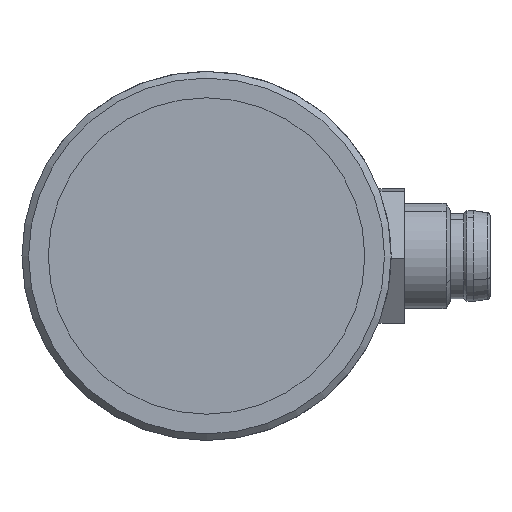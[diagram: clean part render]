
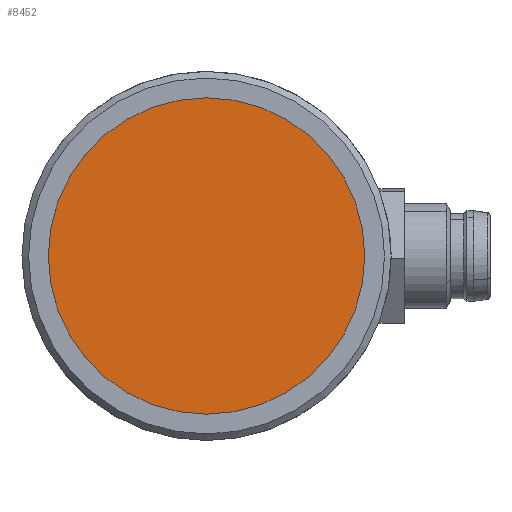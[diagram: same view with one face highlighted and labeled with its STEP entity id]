
A CAD part, left-side view. The second image highlights one B-rep face of the part: STEP entity #8452.
In plain terms, the highlighted planar face has unit normal (-1, 0, 0).
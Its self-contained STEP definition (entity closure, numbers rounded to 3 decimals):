
#447=CIRCLE('',#712,12.);
#712=AXIS2_PLACEMENT_3D('',#10915,#2599,#2600);
#713=AXIS2_PLACEMENT_3D('',#10917,#2601,$);
#1090=PLANE('',#713);
#2599=DIRECTION('',(-1.,0.,0.));
#2600=DIRECTION('',(0.,0.,-12.));
#2601=DIRECTION('',(1.,0.,0.));
#3669=VERTEX_POINT('',#10916);
#4861=EDGE_CURVE('',#3669,#3669,#447,.T.);
#6467=ORIENTED_EDGE('',*,*,#4861,.T.);
#7581=EDGE_LOOP('',(#6467));
#8030=FACE_BOUND('',#7581,.T.);
#8452=ADVANCED_FACE('',(#8030),#1090,.F.);
#10915=CARTESIAN_POINT('',(-49.,0.,0.));
#10916=CARTESIAN_POINT('',(-49.,0.,-12.));
#10917=CARTESIAN_POINT('',(-49.,0.,0.));
